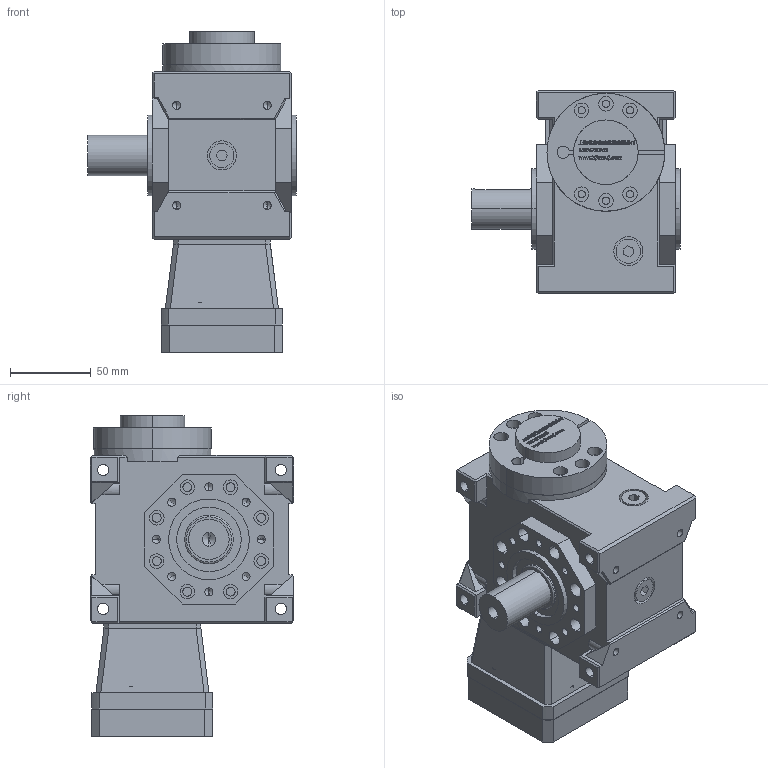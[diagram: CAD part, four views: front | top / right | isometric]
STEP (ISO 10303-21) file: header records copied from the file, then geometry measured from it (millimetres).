
FILE_DESCRIPTION (( 'STEP AP203' ), '1' );
FILE_NAME ('FXLB035-(5~90)-ASL-14-50-70-M5.STEP', '2022-11-05T02:06:43', ( '' ), ( '' ), 'SwSTEP 2.0', 'SolidWorks 2020', '' );
FILE_SCHEMA (( 'CONFIG_CONTROL_DESIGN' ));
Length unit declared in the file: millimetre
Products named in the file (1): FXLB035-(5~90)-ASL-14-50-70-M5
Bounding box: 129 x 126 x 198.7 mm (x, y, z)
Volume: 1285974.1 mm3; surface area: 209237.1 mm2
Topology: 12 solids, 12 shells, 1870 faces, 4832 edges, 3131 vertices
Faces by surface type: plane 1018, cylinder 390, bspline 370, cone 80, torus 12
Entity records: 73345 total; most frequent: CARTESIAN_POINT 29805, ORIENTED_EDGE 9520, DIRECTION 7768, EDGE_CURVE 4760, VECTOR 3152, LINE 3152, VERTEX_POINT 3131, AXIS2_PLACEMENT_3D 2308
